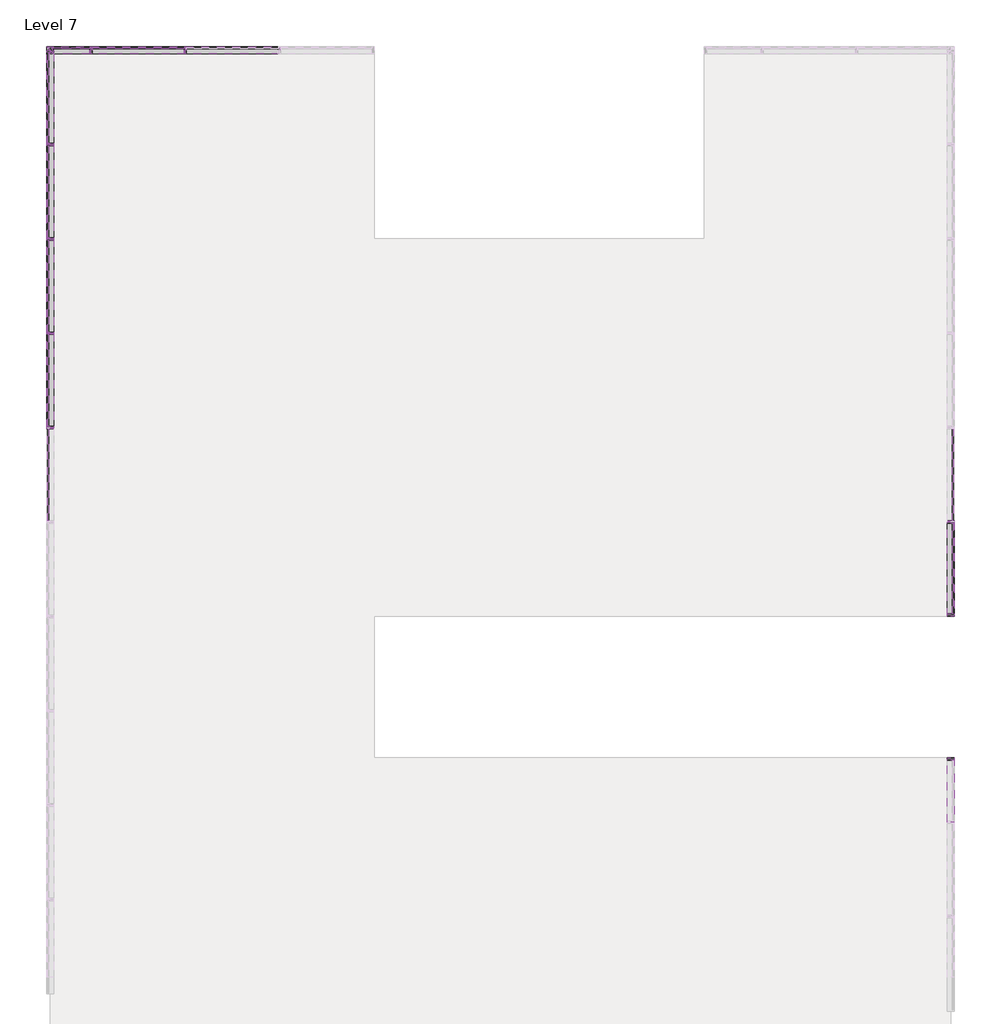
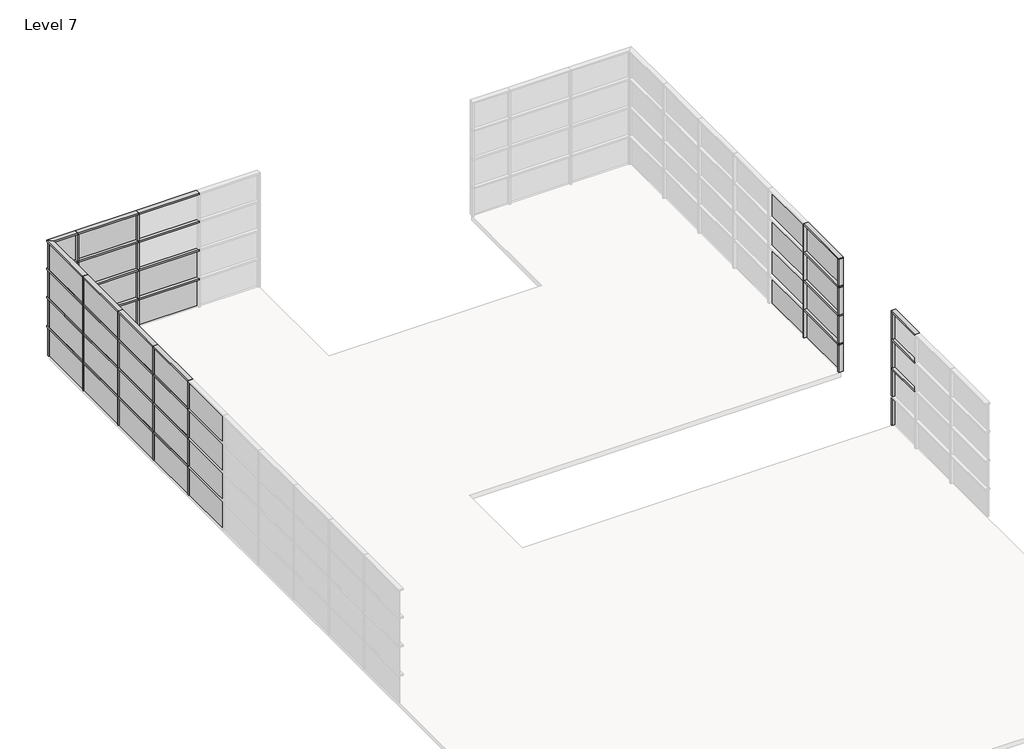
# One storey, part 4 of 5: 79 members, 38 plates.
"""IFC4 building model written with IfcOpenShell, lengths in millimetres."""

from ifc_helpers import new_model, si_unit, origin, place, context, project, spatial, transform, mapped, element, save
from components import rectangular_mullion_50_x_150mm_a053b0ca, rectangular_mullion_50_x_150mm_116cff39, rectangular_mullion_50_x_150mm_aa47fe12, rectangular_mullion_50_x_150mm_3a148f0f, rectangular_mullion_50_x_150mm_a91aaa2b, rectangular_mullion_50_x_150mm_12a430f9, rectangular_mullion_50_x_150mm_c5e90e74, rectangular_mullion_50_x_150mm_c4a1d10e, rectangular_mullion_50_x_150mm_98c2ab41, rectangular_mullion_50_x_150mm_947845bb, rectangular_mullion_50_x_150mm_5fc4eb71, rectangular_mullion_50_x_150mm_5a5a0db4, system_panel_glazed_92d57a36, system_panel_glazed_751a585c, system_panel_glazed_28c32ad2, system_panel_glazed_08de6f5f, system_panel_glazed_1e7c886c, system_panel_glazed_3868a10e

model = new_model("IFC4")

# Units and contexts
model_context = context("Model", 3, world=origin())
ifc_project = project(units=[si_unit("LENGTHUNIT", "METRE", prefix="MILLI")], contexts=[model_context])

# Site, building, storey
site = spatial("IfcSite", under=ifc_project)
building = spatial("IfcBuilding", under=site)
storey = spatial("IfcBuildingStorey", under=building, Name="Level 7", Elevation=24000.0)

# Members
placement = place(None, origin())
rectangular_mullion_50_x_150mm_shape = rectangular_mullion_50_x_150mm_a053b0ca(model_context)
element("IfcMember", 1, ObjectType="Rectangular Mullion : 50 x 150mm", at=placement, inside=storey, context=model_context, shape_type="MappedRepresentation", body=[
    mapped(rectangular_mullion_50_x_150mm_shape, transform((-5587.173406, 6375.9839566, 24025.0), x_axis=(0.0, -1.0, 0.0), y_axis=(-1.0, 0.0, 0.0), z_axis=(0.0, 0.0, -0.9999999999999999))),
])
element("IfcMember", 2, ObjectType="Rectangular Mullion : 50 x 150mm", at=placement, inside=storey, context=model_context, shape_type="MappedRepresentation", body=[
    mapped(rectangular_mullion_50_x_150mm_shape, transform((-5587.173406, 6375.9839566, 25025.0), x_axis=(0.0, -1.0, 0.0), y_axis=(-1.0, 0.0, 0.0), z_axis=(0.0, 0.0, -0.9999999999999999))),
])
element("IfcMember", 3, ObjectType="Rectangular Mullion : 50 x 150mm", at=placement, inside=storey, context=model_context, shape_type="MappedRepresentation", body=[
    mapped(rectangular_mullion_50_x_150mm_shape, transform((-5587.173406, 6375.9839566, 26025.0), x_axis=(0.0, -1.0, 0.0), y_axis=(-1.0, 0.0, 0.0), z_axis=(0.0, 0.0, -0.9999999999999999))),
])
element("IfcMember", 4, ObjectType="Rectangular Mullion : 50 x 150mm", at=placement, inside=storey, context=model_context, shape_type="MappedRepresentation", body=[
    mapped(rectangular_mullion_50_x_150mm_shape, transform((-5587.173406, 4375.9839566, 24025.0), x_axis=(0.0, -1.0, 0.0), y_axis=(-1.0, 0.0, 0.0), z_axis=(0.0, 0.0, -0.9999999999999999))),
])
element("IfcMember", 5, ObjectType="Rectangular Mullion : 50 x 150mm", at=placement, inside=storey, context=model_context, shape_type="MappedRepresentation", body=[
    mapped(rectangular_mullion_50_x_150mm_shape, transform((-5587.173406, 4375.9839566, 25025.0), x_axis=(0.0, -1.0, 0.0), y_axis=(-1.0, 0.0, 0.0), z_axis=(0.0, 0.0, -0.9999999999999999))),
])
element("IfcMember", 6, ObjectType="Rectangular Mullion : 50 x 150mm", at=placement, inside=storey, context=model_context, shape_type="MappedRepresentation", body=[
    mapped(rectangular_mullion_50_x_150mm_shape, transform((-5587.173406, 4375.9839566, 26025.0), x_axis=(0.0, -1.0, 0.0), y_axis=(-1.0, 0.0, 0.0), z_axis=(0.0, 0.0, -0.9999999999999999))),
])
element("IfcMember", 7, ObjectType="Rectangular Mullion : 50 x 150mm", at=placement, inside=storey, context=model_context, shape_type="MappedRepresentation", body=[
    mapped(rectangular_mullion_50_x_150mm_shape, transform((-5587.173406, 2375.9839566, 24025.0), x_axis=(0.0, -1.0, 0.0), y_axis=(-1.0, 0.0, 0.0), z_axis=(0.0, 0.0, -0.9999999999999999))),
])
element("IfcMember", 8, ObjectType="Rectangular Mullion : 50 x 150mm", at=placement, inside=storey, context=model_context, shape_type="MappedRepresentation", body=[
    mapped(rectangular_mullion_50_x_150mm_shape, transform((-5587.173406, 2375.9839566, 25025.0), x_axis=(0.0, -1.0, 0.0), y_axis=(-1.0, 0.0, 0.0), z_axis=(0.0, 0.0, -0.9999999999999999))),
])
element("IfcMember", 9, ObjectType="Rectangular Mullion : 50 x 150mm", at=placement, inside=storey, context=model_context, shape_type="MappedRepresentation", body=[
    mapped(rectangular_mullion_50_x_150mm_shape, transform((-5587.173406, 2375.9839566, 26025.0), x_axis=(0.0, -1.0, 0.0), y_axis=(-1.0, 0.0, 0.0), z_axis=(0.0, 0.0, -0.9999999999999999))),
])
element("IfcMember", 10, ObjectType="Rectangular Mullion : 50 x 150mm", at=placement, inside=storey, context=model_context, shape_type="MappedRepresentation", body=[
    mapped(rectangular_mullion_50_x_150mm_shape, transform((-5587.173406, 375.9839566, 24025.0), x_axis=(0.0, -1.0, 0.0), y_axis=(-1.0, 0.0, 0.0), z_axis=(0.0, 0.0, -0.9999999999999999))),
])
element("IfcMember", 11, ObjectType="Rectangular Mullion : 50 x 150mm", at=placement, inside=storey, context=model_context, shape_type="MappedRepresentation", body=[
    mapped(rectangular_mullion_50_x_150mm_shape, transform((-5587.173406, 375.9839566, 25025.0), x_axis=(0.0, -1.0, 0.0), y_axis=(-1.0, 0.0, 0.0), z_axis=(0.0, 0.0, -0.9999999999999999))),
])
element("IfcMember", 12, ObjectType="Rectangular Mullion : 50 x 150mm", at=placement, inside=storey, context=model_context, shape_type="MappedRepresentation", body=[
    mapped(rectangular_mullion_50_x_150mm_shape, transform((-5587.173406, 375.9839566, 26025.0), x_axis=(0.0, -1.0, 0.0), y_axis=(-1.0, 0.0, 0.0), z_axis=(0.0, 0.0, -0.9999999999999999))),
])
element("IfcMember", 13, ObjectType="Rectangular Mullion : 50 x 150mm", at=placement, inside=storey, context=model_context, shape_type="MappedRepresentation", body=[
    mapped(rectangular_mullion_50_x_150mm_shape, transform((-4721.580781, 8375.9839566, 24025.0), x_axis=(-1.0, 0.0, 0.0), y_axis=(0.0, 1.0, 0.0), z_axis=(0.0, 0.0, -0.9999999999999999))),
])
element("IfcMember", 14, ObjectType="Rectangular Mullion : 50 x 150mm", at=placement, inside=storey, context=model_context, shape_type="MappedRepresentation", body=[
    mapped(rectangular_mullion_50_x_150mm_shape, transform((-4721.580781, 8375.9839566, 25025.0), x_axis=(-1.0, 0.0, 0.0), y_axis=(0.0, 1.0, 0.0), z_axis=(0.0, 0.0, -0.9999999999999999))),
])
element("IfcMember", 15, ObjectType="Rectangular Mullion : 50 x 150mm", at=placement, inside=storey, context=model_context, shape_type="MappedRepresentation", body=[
    mapped(rectangular_mullion_50_x_150mm_shape, transform((-4721.580781, 8375.9839566, 26025.0), x_axis=(-1.0, 0.0, 0.0), y_axis=(0.0, 1.0, 0.0), z_axis=(0.0, 0.0, -0.9999999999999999))),
])
element("IfcMember", 16, ObjectType="Rectangular Mullion : 50 x 150mm", at=placement, inside=storey, context=model_context, shape_type="MappedRepresentation", body=[
    mapped(rectangular_mullion_50_x_150mm_shape, transform((-2721.580781, 8375.9839566, 24025.0), x_axis=(-1.0, 0.0, 0.0), y_axis=(0.0, 1.0, 0.0), z_axis=(0.0, 0.0, -0.9999999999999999))),
])
element("IfcMember", 17, ObjectType="Rectangular Mullion : 50 x 150mm", at=placement, inside=storey, context=model_context, shape_type="MappedRepresentation", body=[
    mapped(rectangular_mullion_50_x_150mm_shape, transform((-2721.580781, 8375.9839566, 25025.0), x_axis=(-1.0, 0.0, 0.0), y_axis=(0.0, 1.0, 0.0), z_axis=(0.0, 0.0, -0.9999999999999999))),
])
element("IfcMember", 18, ObjectType="Rectangular Mullion : 50 x 150mm", at=placement, inside=storey, context=model_context, shape_type="MappedRepresentation", body=[
    mapped(rectangular_mullion_50_x_150mm_shape, transform((-2721.580781, 8375.9839566, 26025.0), x_axis=(-1.0, 0.0, 0.0), y_axis=(0.0, 1.0, 0.0), z_axis=(0.0, 0.0, -0.9999999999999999))),
])
element("IfcMember", 19, ObjectType="Rectangular Mullion : 50 x 150mm", at=placement, inside=storey, context=model_context, shape_type="MappedRepresentation", body=[
    mapped(rectangular_mullion_50_x_150mm_shape, transform((13503.2660975, -1624.0160434, 24025.0), x_axis=(0.0, 1.0, 0.0), y_axis=(1.0, 0.0, 0.0), z_axis=(0.0, 0.0, -0.9999999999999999))),
])
element("IfcMember", 20, ObjectType="Rectangular Mullion : 50 x 150mm", at=placement, inside=storey, context=model_context, shape_type="MappedRepresentation", body=[
    mapped(rectangular_mullion_50_x_150mm_shape, transform((13503.2660975, -1624.0160434, 25025.0), x_axis=(0.0, 1.0, 0.0), y_axis=(1.0, 0.0, 0.0), z_axis=(0.0, 0.0, -0.9999999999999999))),
])
element("IfcMember", 21, ObjectType="Rectangular Mullion : 50 x 150mm", at=placement, inside=storey, context=model_context, shape_type="MappedRepresentation", body=[
    mapped(rectangular_mullion_50_x_150mm_shape, transform((13503.2660975, -1624.0160434, 26025.0), x_axis=(0.0, 1.0, 0.0), y_axis=(1.0, 0.0, 0.0), z_axis=(0.0, 0.0, -0.9999999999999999))),
])
rectangular_mullion_50_x_150mm_2_shape = rectangular_mullion_50_x_150mm_116cff39(model_context)
element("IfcMember", 22, ObjectType="Rectangular Mullion : 50 x 150mm", at=placement, inside=storey, context=model_context, shape_type="MappedRepresentation", body=[
    mapped(rectangular_mullion_50_x_150mm_2_shape, transform((-5587.173406, 6375.9839566, 27025.0), x_axis=(0.0, -1.0, 0.0), y_axis=(-1.0, 0.0, 0.0), z_axis=(0.0, 0.0, -1.0))),
])
element("IfcMember", 23, ObjectType="Rectangular Mullion : 50 x 150mm", at=placement, inside=storey, context=model_context, shape_type="MappedRepresentation", body=[
    mapped(rectangular_mullion_50_x_150mm_2_shape, transform((-5587.173406, 4375.9839566, 27025.0), x_axis=(0.0, -1.0, 0.0), y_axis=(-1.0, 0.0, 0.0), z_axis=(0.0, 0.0, -1.0))),
])
element("IfcMember", 24, ObjectType="Rectangular Mullion : 50 x 150mm", at=placement, inside=storey, context=model_context, shape_type="MappedRepresentation", body=[
    mapped(rectangular_mullion_50_x_150mm_2_shape, transform((-5587.173406, 2375.9839566, 27025.0), x_axis=(0.0, -1.0, 0.0), y_axis=(-1.0, 0.0, 0.0), z_axis=(0.0, 0.0, -1.0))),
])
element("IfcMember", 25, ObjectType="Rectangular Mullion : 50 x 150mm", at=placement, inside=storey, context=model_context, shape_type="MappedRepresentation", body=[
    mapped(rectangular_mullion_50_x_150mm_2_shape, transform((-5587.173406, 375.9839566, 27025.0), x_axis=(0.0, -1.0, 0.0), y_axis=(-1.0, 0.0, 0.0), z_axis=(0.0, 0.0, -1.0))),
])
element("IfcMember", 26, ObjectType="Rectangular Mullion : 50 x 150mm", at=placement, inside=storey, context=model_context, shape_type="MappedRepresentation", body=[
    mapped(rectangular_mullion_50_x_150mm_2_shape, transform((-4721.580781, 8375.9839566, 27025.0), x_axis=(-1.0, 0.0, 0.0), y_axis=(0.0, 1.0, 0.0), z_axis=(0.0, 0.0, -1.0))),
])
element("IfcMember", 27, ObjectType="Rectangular Mullion : 50 x 150mm", at=placement, inside=storey, context=model_context, shape_type="MappedRepresentation", body=[
    mapped(rectangular_mullion_50_x_150mm_2_shape, transform((-2721.580781, 8375.9839566, 27025.0), x_axis=(-1.0, 0.0, 0.0), y_axis=(0.0, 1.0, 0.0), z_axis=(0.0, 0.0, -1.0))),
])
element("IfcMember", 28, ObjectType="Rectangular Mullion : 50 x 150mm", at=placement, inside=storey, context=model_context, shape_type="MappedRepresentation", body=[
    mapped(rectangular_mullion_50_x_150mm_2_shape, transform((13503.2660975, -1624.0160434, 27025.0), x_axis=(0.0, 1.0, 0.0), y_axis=(1.0, 0.0, 0.0), z_axis=(0.0, 0.0, -1.0))),
])
rectangular_mullion_50_x_150mm_3_shape = rectangular_mullion_50_x_150mm_aa47fe12(model_context)
element("IfcMember", 29, ObjectType="Rectangular Mullion : 50 x 150mm", at=placement, inside=storey, context=model_context, shape_type="MappedRepresentation", body=[
    mapped(rectangular_mullion_50_x_150mm_3_shape, transform((13503.2660975, -1624.0160434, 28000.0), x_axis=(0.0, 0.0, 1.0), y_axis=(1.0, 0.0, 0.0), z_axis=(0.0, 1.0, 0.0))),
])
element("IfcMember", 30, ObjectType="Rectangular Mullion : 50 x 150mm", at=placement, inside=storey, context=model_context, shape_type="MappedRepresentation", body=[
    mapped(rectangular_mullion_50_x_150mm_3_shape, transform((-5587.173406, 4375.9839566, 28000.0), x_axis=(0.0, 0.0, 1.0), y_axis=(-1.0, 0.0, 0.0), z_axis=(0.0, -1.0, 0.0))),
])
element("IfcMember", 31, ObjectType="Rectangular Mullion : 50 x 150mm", at=placement, inside=storey, context=model_context, shape_type="MappedRepresentation", body=[
    mapped(rectangular_mullion_50_x_150mm_3_shape, transform((-5587.173406, 2375.9839566, 28000.0), x_axis=(0.0, 0.0, 1.0), y_axis=(-1.0, 0.0, 0.0), z_axis=(0.0, -1.0, 0.0))),
])
element("IfcMember", 32, ObjectType="Rectangular Mullion : 50 x 150mm", at=placement, inside=storey, context=model_context, shape_type="MappedRepresentation", body=[
    mapped(rectangular_mullion_50_x_150mm_3_shape, transform((-5587.173406, 375.9839566, 28000.0), x_axis=(0.0, 0.0, 1.0), y_axis=(-1.0, 0.0, 0.0), z_axis=(0.0, -1.0, 0.0))),
])
element("IfcMember", 33, ObjectType="Rectangular Mullion : 50 x 150mm", at=placement, inside=storey, context=model_context, shape_type="MappedRepresentation", body=[
    mapped(rectangular_mullion_50_x_150mm_3_shape, transform((-2721.580781, 8375.9839566, 28000.0), x_axis=(0.0, 0.0, 1.0), y_axis=(0.0, 1.0, 0.0), z_axis=(-1.0, 0.0, 0.0))),
])
element("IfcMember", 34, ObjectType="Rectangular Mullion : 50 x 150mm", at=placement, inside=storey, context=model_context, shape_type="MappedRepresentation", body=[
    mapped(rectangular_mullion_50_x_150mm_3_shape, transform((-4721.580781, 8375.9839566, 28000.0), x_axis=(0.0, 0.0, 1.0), y_axis=(0.0, 1.0, 0.0), z_axis=(-1.0, 0.0, 0.0))),
])
rectangular_mullion_50_x_150mm_4_shape = rectangular_mullion_50_x_150mm_3a148f0f(model_context)
element("IfcMember", 35, ObjectType="Rectangular Mullion : 50 x 150mm", at=placement, inside=storey, context=model_context, shape_type="MappedRepresentation", body=[
    mapped(rectangular_mullion_50_x_150mm_4_shape, transform((13503.2660975, -1624.0160434, 25000.0), x_axis=(0.0, 0.0, 1.0), y_axis=(1.0, 0.0, 0.0), z_axis=(0.0, 1.0, 0.0))),
])
element("IfcMember", 36, ObjectType="Rectangular Mullion : 50 x 150mm", at=placement, inside=storey, context=model_context, shape_type="MappedRepresentation", body=[
    mapped(rectangular_mullion_50_x_150mm_4_shape, transform((13503.2660975, -1624.0160434, 26000.0), x_axis=(0.0, 0.0, 1.0), y_axis=(1.0, 0.0, 0.0), z_axis=(0.0, 1.0, 0.0))),
])
element("IfcMember", 37, ObjectType="Rectangular Mullion : 50 x 150mm", at=placement, inside=storey, context=model_context, shape_type="MappedRepresentation", body=[
    mapped(rectangular_mullion_50_x_150mm_4_shape, transform((13503.2660975, -1624.0160434, 27000.0), x_axis=(0.0, 0.0, 1.0), y_axis=(1.0, 0.0, 0.0), z_axis=(0.0, 1.0, 0.0))),
])
element("IfcMember", 38, ObjectType="Rectangular Mullion : 50 x 150mm", at=placement, inside=storey, context=model_context, shape_type="MappedRepresentation", body=[
    mapped(rectangular_mullion_50_x_150mm_4_shape, transform((-5587.173406, 4375.9839566, 25000.0), x_axis=(0.0, 0.0, 1.0), y_axis=(-1.0, 0.0, 0.0), z_axis=(0.0, -1.0, 0.0))),
])
element("IfcMember", 39, ObjectType="Rectangular Mullion : 50 x 150mm", at=placement, inside=storey, context=model_context, shape_type="MappedRepresentation", body=[
    mapped(rectangular_mullion_50_x_150mm_4_shape, transform((-5587.173406, 2375.9839566, 25000.0), x_axis=(0.0, 0.0, 1.0), y_axis=(-1.0, 0.0, 0.0), z_axis=(0.0, -1.0, 0.0))),
])
element("IfcMember", 40, ObjectType="Rectangular Mullion : 50 x 150mm", at=placement, inside=storey, context=model_context, shape_type="MappedRepresentation", body=[
    mapped(rectangular_mullion_50_x_150mm_4_shape, transform((-5587.173406, 375.9839566, 25000.0), x_axis=(0.0, 0.0, 1.0), y_axis=(-1.0, 0.0, 0.0), z_axis=(0.0, -1.0, 0.0))),
])
element("IfcMember", 41, ObjectType="Rectangular Mullion : 50 x 150mm", at=placement, inside=storey, context=model_context, shape_type="MappedRepresentation", body=[
    mapped(rectangular_mullion_50_x_150mm_4_shape, transform((-5587.173406, 4375.9839566, 26000.0), x_axis=(0.0, 0.0, 1.0), y_axis=(-1.0, 0.0, 0.0), z_axis=(0.0, -1.0, 0.0))),
])
element("IfcMember", 42, ObjectType="Rectangular Mullion : 50 x 150mm", at=placement, inside=storey, context=model_context, shape_type="MappedRepresentation", body=[
    mapped(rectangular_mullion_50_x_150mm_4_shape, transform((-5587.173406, 2375.9839566, 26000.0), x_axis=(0.0, 0.0, 1.0), y_axis=(-1.0, 0.0, 0.0), z_axis=(0.0, -1.0, 0.0))),
])
element("IfcMember", 43, ObjectType="Rectangular Mullion : 50 x 150mm", at=placement, inside=storey, context=model_context, shape_type="MappedRepresentation", body=[
    mapped(rectangular_mullion_50_x_150mm_4_shape, transform((-5587.173406, 375.9839566, 26000.0), x_axis=(0.0, 0.0, 1.0), y_axis=(-1.0, 0.0, 0.0), z_axis=(0.0, -1.0, 0.0))),
])
element("IfcMember", 44, ObjectType="Rectangular Mullion : 50 x 150mm", at=placement, inside=storey, context=model_context, shape_type="MappedRepresentation", body=[
    mapped(rectangular_mullion_50_x_150mm_4_shape, transform((-5587.173406, 4375.9839566, 27000.0), x_axis=(0.0, 0.0, 1.0), y_axis=(-1.0, 0.0, 0.0), z_axis=(0.0, -1.0, 0.0))),
])
element("IfcMember", 45, ObjectType="Rectangular Mullion : 50 x 150mm", at=placement, inside=storey, context=model_context, shape_type="MappedRepresentation", body=[
    mapped(rectangular_mullion_50_x_150mm_4_shape, transform((-5587.173406, 2375.9839566, 27000.0), x_axis=(0.0, 0.0, 1.0), y_axis=(-1.0, 0.0, 0.0), z_axis=(0.0, -1.0, 0.0))),
])
element("IfcMember", 46, ObjectType="Rectangular Mullion : 50 x 150mm", at=placement, inside=storey, context=model_context, shape_type="MappedRepresentation", body=[
    mapped(rectangular_mullion_50_x_150mm_4_shape, transform((-5587.173406, 375.9839566, 27000.0), x_axis=(0.0, 0.0, 1.0), y_axis=(-1.0, 0.0, 0.0), z_axis=(0.0, -1.0, 0.0))),
])
element("IfcMember", 47, ObjectType="Rectangular Mullion : 50 x 150mm", at=placement, inside=storey, context=model_context, shape_type="MappedRepresentation", body=[
    mapped(rectangular_mullion_50_x_150mm_4_shape, transform((-2721.580781, 8375.9839566, 25000.0), x_axis=(0.0, 0.0, 1.0), y_axis=(0.0, 1.0, 0.0), z_axis=(-1.0, 0.0, 0.0))),
])
element("IfcMember", 48, ObjectType="Rectangular Mullion : 50 x 150mm", at=placement, inside=storey, context=model_context, shape_type="MappedRepresentation", body=[
    mapped(rectangular_mullion_50_x_150mm_4_shape, transform((-4721.580781, 8375.9839566, 25000.0), x_axis=(0.0, 0.0, 1.0), y_axis=(0.0, 1.0, 0.0), z_axis=(-1.0, 0.0, 0.0))),
])
element("IfcMember", 49, ObjectType="Rectangular Mullion : 50 x 150mm", at=placement, inside=storey, context=model_context, shape_type="MappedRepresentation", body=[
    mapped(rectangular_mullion_50_x_150mm_4_shape, transform((-2721.580781, 8375.9839566, 26000.0), x_axis=(0.0, 0.0, 1.0), y_axis=(0.0, 1.0, 0.0), z_axis=(-1.0, 0.0, 0.0))),
])
element("IfcMember", 50, ObjectType="Rectangular Mullion : 50 x 150mm", at=placement, inside=storey, context=model_context, shape_type="MappedRepresentation", body=[
    mapped(rectangular_mullion_50_x_150mm_4_shape, transform((-4721.580781, 8375.9839566, 26000.0), x_axis=(0.0, 0.0, 1.0), y_axis=(0.0, 1.0, 0.0), z_axis=(-1.0, 0.0, 0.0))),
])
element("IfcMember", 51, ObjectType="Rectangular Mullion : 50 x 150mm", at=placement, inside=storey, context=model_context, shape_type="MappedRepresentation", body=[
    mapped(rectangular_mullion_50_x_150mm_4_shape, transform((-2721.580781, 8375.9839566, 27000.0), x_axis=(0.0, 0.0, 1.0), y_axis=(0.0, 1.0, 0.0), z_axis=(-1.0, 0.0, 0.0))),
])
element("IfcMember", 52, ObjectType="Rectangular Mullion : 50 x 150mm", at=placement, inside=storey, context=model_context, shape_type="MappedRepresentation", body=[
    mapped(rectangular_mullion_50_x_150mm_4_shape, transform((-4721.580781, 8375.9839566, 27000.0), x_axis=(0.0, 0.0, 1.0), y_axis=(0.0, 1.0, 0.0), z_axis=(-1.0, 0.0, 0.0))),
])
rectangular_mullion_50_x_150mm_5_shape = rectangular_mullion_50_x_150mm_a91aaa2b(model_context)
element("IfcMember", 53, ObjectType="Rectangular Mullion : 50 x 150mm", at=placement, inside=storey, context=model_context, shape_type="MappedRepresentation", body=[
    mapped(rectangular_mullion_50_x_150mm_5_shape, transform((-5587.173406, 8375.9839566, 27950.0), x_axis=(0.0, 1.0, 0.0), y_axis=(-1.0, 0.0, 0.0), z_axis=(0.0, 0.0, 1.0))),
])
element("IfcMember", 54, ObjectType="Rectangular Mullion : 50 x 150mm", at=placement, inside=storey, context=model_context, shape_type="MappedRepresentation", body=[
    mapped(rectangular_mullion_50_x_150mm_5_shape, transform((13503.2660975, -3624.0160434, 27950.0), x_axis=(0.0, -1.0, 0.0), y_axis=(1.0, 0.0, 0.0), z_axis=(0.0, 0.0, 1.0))),
])
rectangular_mullion_50_x_150mm_6_shape = rectangular_mullion_50_x_150mm_12a430f9(model_context)
element("IfcMember", 55, ObjectType="Rectangular Mullion : 50 x 150mm", at=placement, inside=storey, context=model_context, shape_type="MappedRepresentation", body=[
    mapped(rectangular_mullion_50_x_150mm_6_shape, transform((-5587.173406, 8375.9839566, 24975.0), x_axis=(0.0, 1.0, 0.0), y_axis=(-1.0, 0.0, 0.0), z_axis=(0.0, 0.0, 0.9999999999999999))),
])
element("IfcMember", 56, ObjectType="Rectangular Mullion : 50 x 150mm", at=placement, inside=storey, context=model_context, shape_type="MappedRepresentation", body=[
    mapped(rectangular_mullion_50_x_150mm_6_shape, transform((-5587.173406, 8375.9839566, 25975.0), x_axis=(0.0, 1.0, 0.0), y_axis=(-1.0, 0.0, 0.0), z_axis=(0.0, 0.0, 0.9999999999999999))),
])
element("IfcMember", 57, ObjectType="Rectangular Mullion : 50 x 150mm", at=placement, inside=storey, context=model_context, shape_type="MappedRepresentation", body=[
    mapped(rectangular_mullion_50_x_150mm_6_shape, transform((-5587.173406, 8375.9839566, 26975.0), x_axis=(0.0, 1.0, 0.0), y_axis=(-1.0, 0.0, 0.0), z_axis=(0.0, 0.0, 0.9999999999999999))),
])
element("IfcMember", 58, ObjectType="Rectangular Mullion : 50 x 150mm", at=placement, inside=storey, context=model_context, shape_type="MappedRepresentation", body=[
    mapped(rectangular_mullion_50_x_150mm_6_shape, transform((13503.2660975, -3624.0160434, 24975.0), x_axis=(0.0, -1.0, 0.0), y_axis=(1.0, 0.0, 0.0), z_axis=(0.0, 0.0, 0.9999999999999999))),
])
element("IfcMember", 59, ObjectType="Rectangular Mullion : 50 x 150mm", at=placement, inside=storey, context=model_context, shape_type="MappedRepresentation", body=[
    mapped(rectangular_mullion_50_x_150mm_6_shape, transform((13503.2660975, -3624.0160434, 25975.0), x_axis=(0.0, -1.0, 0.0), y_axis=(1.0, 0.0, 0.0), z_axis=(0.0, 0.0, 0.9999999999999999))),
])
element("IfcMember", 60, ObjectType="Rectangular Mullion : 50 x 150mm", at=placement, inside=storey, context=model_context, shape_type="MappedRepresentation", body=[
    mapped(rectangular_mullion_50_x_150mm_6_shape, transform((13503.2660975, -3624.0160434, 26975.0), x_axis=(0.0, -1.0, 0.0), y_axis=(1.0, 0.0, 0.0), z_axis=(0.0, 0.0, 0.9999999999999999))),
])
element("IfcMember", 61, ObjectType="Rectangular Mullion : 50 x 150mm", at=placement, inside=storey, context=model_context, shape_type="MappedRepresentation", body=[
    mapped(rectangular_mullion_50_x_150mm_6_shape, transform((-5587.173406, 8375.9839566, 24025.0), x_axis=(-1.0, 0.0, 0.0), y_axis=(0.0, 1.0, 0.0), z_axis=(0.0, 0.0, -0.9999999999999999))),
])
element("IfcMember", 62, ObjectType="Rectangular Mullion : 50 x 150mm", at=placement, inside=storey, context=model_context, shape_type="MappedRepresentation", body=[
    mapped(rectangular_mullion_50_x_150mm_6_shape, transform((-5587.173406, 8375.9839566, 25025.0), x_axis=(-1.0, 0.0, 0.0), y_axis=(0.0, 1.0, 0.0), z_axis=(0.0, 0.0, -0.9999999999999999))),
])
element("IfcMember", 63, ObjectType="Rectangular Mullion : 50 x 150mm", at=placement, inside=storey, context=model_context, shape_type="MappedRepresentation", body=[
    mapped(rectangular_mullion_50_x_150mm_6_shape, transform((-5587.173406, 8375.9839566, 26025.0), x_axis=(-1.0, 0.0, 0.0), y_axis=(0.0, 1.0, 0.0), z_axis=(0.0, 0.0, -0.9999999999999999))),
])
element("IfcMember", 64, ObjectType="Rectangular Mullion : 50 x 150mm", at=placement, inside=storey, context=model_context, shape_type="MappedRepresentation", body=[
    mapped(rectangular_mullion_50_x_150mm_6_shape, transform((13503.2660975, -6624.0160434, 24025.0), x_axis=(0.0, 1.0, 0.0), y_axis=(1.0, 0.0, 0.0), z_axis=(0.0, 0.0, -0.9999999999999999))),
])
element("IfcMember", 65, ObjectType="Rectangular Mullion : 50 x 150mm", at=placement, inside=storey, context=model_context, shape_type="MappedRepresentation", body=[
    mapped(rectangular_mullion_50_x_150mm_6_shape, transform((13503.2660975, -6624.0160434, 25025.0), x_axis=(0.0, 1.0, 0.0), y_axis=(1.0, 0.0, 0.0), z_axis=(0.0, 0.0, -0.9999999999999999))),
])
element("IfcMember", 66, ObjectType="Rectangular Mullion : 50 x 150mm", at=placement, inside=storey, context=model_context, shape_type="MappedRepresentation", body=[
    mapped(rectangular_mullion_50_x_150mm_6_shape, transform((13503.2660975, -6624.0160434, 26025.0), x_axis=(0.0, 1.0, 0.0), y_axis=(1.0, 0.0, 0.0), z_axis=(0.0, 0.0, -0.9999999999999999))),
])
element("IfcMember", 67, ObjectType="Rectangular Mullion : 50 x 150mm", at=placement, inside=storey, context=model_context, shape_type="MappedRepresentation", body=[
    mapped(rectangular_mullion_50_x_150mm_5_shape, transform((-5587.173406, 8375.9839566, 27025.0), x_axis=(-1.0, 0.0, 0.0), y_axis=(0.0, 1.0, 0.0), z_axis=(0.0, 0.0, -1.0))),
])
element("IfcMember", 68, ObjectType="Rectangular Mullion : 50 x 150mm", at=placement, inside=storey, context=model_context, shape_type="MappedRepresentation", body=[
    mapped(rectangular_mullion_50_x_150mm_5_shape, transform((13503.2660975, -6624.0160434, 27025.0), x_axis=(0.0, 1.0, 0.0), y_axis=(1.0, 0.0, 0.0), z_axis=(0.0, 0.0, -1.0))),
])
rectangular_mullion_50_x_150mm_7_shape = rectangular_mullion_50_x_150mm_c5e90e74(model_context)
element("IfcMember", 69, ObjectType="Rectangular Mullion : 50 x 150mm", at=placement, inside=storey, context=model_context, shape_type="MappedRepresentation", body=[
    mapped(rectangular_mullion_50_x_150mm_7_shape, transform((-5587.173406, 8375.9839566, 28000.0), x_axis=(0.0, 0.0, 1.0), y_axis=(0.0, 1.0, 0.0), z_axis=(-1.0, 0.0, 0.0))),
])
rectangular_mullion_50_x_150mm_8_shape = rectangular_mullion_50_x_150mm_c4a1d10e(model_context)
element("IfcMember", 70, ObjectType="Rectangular Mullion : 50 x 150mm", at=placement, inside=storey, context=model_context, shape_type="MappedRepresentation", body=[
    mapped(rectangular_mullion_50_x_150mm_8_shape, transform((-5587.173406, 8375.9839566, 25000.0), x_axis=(0.0, 0.0, 1.0), y_axis=(0.0, 1.0, 0.0), z_axis=(-1.0, 0.0, 0.0))),
])
element("IfcMember", 71, ObjectType="Rectangular Mullion : 50 x 150mm", at=placement, inside=storey, context=model_context, shape_type="MappedRepresentation", body=[
    mapped(rectangular_mullion_50_x_150mm_8_shape, transform((-5587.173406, 8375.9839566, 26000.0), x_axis=(0.0, 0.0, 1.0), y_axis=(0.0, 1.0, 0.0), z_axis=(-1.0, 0.0, 0.0))),
])
element("IfcMember", 72, ObjectType="Rectangular Mullion : 50 x 150mm", at=placement, inside=storey, context=model_context, shape_type="MappedRepresentation", body=[
    mapped(rectangular_mullion_50_x_150mm_8_shape, transform((-5587.173406, 8375.9839566, 27000.0), x_axis=(0.0, 0.0, 1.0), y_axis=(0.0, 1.0, 0.0), z_axis=(-1.0, 0.0, 0.0))),
])
rectangular_mullion_50_x_150mm_9_shape = rectangular_mullion_50_x_150mm_98c2ab41(model_context)
element("IfcMember", 73, ObjectType="Rectangular Mullion : 50 x 150mm", at=placement, inside=storey, context=model_context, shape_type="MappedRepresentation", body=[
    mapped(rectangular_mullion_50_x_150mm_9_shape, transform((-5587.173406, 6375.9839566, 28000.0), x_axis=(0.0, 0.0, 1.0), y_axis=(-1.0, 0.0, 0.0), z_axis=(0.0, -1.0, 0.0))),
])
rectangular_mullion_50_x_150mm_10_shape = rectangular_mullion_50_x_150mm_947845bb(model_context)
element("IfcMember", 74, ObjectType="Rectangular Mullion : 50 x 150mm", at=placement, inside=storey, context=model_context, shape_type="MappedRepresentation", body=[
    mapped(rectangular_mullion_50_x_150mm_10_shape, transform((-5587.173406, 6375.9839566, 25000.0), x_axis=(0.0, 0.0, 1.0), y_axis=(-1.0, 0.0, 0.0), z_axis=(0.0, -1.0, 0.0))),
])
element("IfcMember", 75, ObjectType="Rectangular Mullion : 50 x 150mm", at=placement, inside=storey, context=model_context, shape_type="MappedRepresentation", body=[
    mapped(rectangular_mullion_50_x_150mm_10_shape, transform((-5587.173406, 6375.9839566, 26000.0), x_axis=(0.0, 0.0, 1.0), y_axis=(-1.0, 0.0, 0.0), z_axis=(0.0, -1.0, 0.0))),
])
element("IfcMember", 76, ObjectType="Rectangular Mullion : 50 x 150mm", at=placement, inside=storey, context=model_context, shape_type="MappedRepresentation", body=[
    mapped(rectangular_mullion_50_x_150mm_10_shape, transform((-5587.173406, 6375.9839566, 27000.0), x_axis=(0.0, 0.0, 1.0), y_axis=(-1.0, 0.0, 0.0), z_axis=(0.0, -1.0, 0.0))),
])
rectangular_mullion_50_x_150mm_11_shape = rectangular_mullion_50_x_150mm_5fc4eb71(model_context)
element("IfcMember", 77, ObjectType="Rectangular Mullion : 50 x 150mm", at=placement, inside=storey, context=model_context, shape_type="MappedRepresentation", body=[
    mapped(rectangular_mullion_50_x_150mm_11_shape, transform((13503.2660975, -6624.0160434, 26000.0), x_axis=(0.0, 0.0, 1.0), y_axis=(1.0, 0.0, 0.0), z_axis=(0.0, 1.0, 0.0))),
])
element("IfcMember", 78, ObjectType="Rectangular Mullion : 50 x 150mm", at=placement, inside=storey, context=model_context, shape_type="MappedRepresentation", body=[
    mapped(rectangular_mullion_50_x_150mm_11_shape, transform((13503.2660975, -6624.0160434, 27000.0), x_axis=(0.0, 0.0, 1.0), y_axis=(1.0, 0.0, 0.0), z_axis=(0.0, 1.0, 0.0))),
])
rectangular_mullion_50_x_150mm_12_shape = rectangular_mullion_50_x_150mm_5a5a0db4(model_context)
element("IfcMember", 79, ObjectType="Rectangular Mullion : 50 x 150mm", at=placement, inside=storey, context=model_context, shape_type="MappedRepresentation", body=[
    mapped(rectangular_mullion_50_x_150mm_12_shape, transform((13503.2660975, -6624.0160434, 28000.0), x_axis=(0.0, 0.0, 1.0), y_axis=(1.0, 0.0, 0.0), z_axis=(0.0, 1.0, 0.0))),
])

# Plates
system_panel_glazed_shape = system_panel_glazed_92d57a36(model_context)
element("IfcPlate", 80, ObjectType="System Panel : Glazed", at=placement, inside=storey, context=model_context, shape_type="MappedRepresentation", body=[
    mapped(system_panel_glazed_shape, transform((-5587.173406, 8325.9839566, 27487.5), x_axis=(0.0, 0.0, 1.0), y_axis=(-1.0, 0.0, 0.0), z_axis=(0.0, -1.0, 0.0))),
])
element("IfcPlate", 81, ObjectType="System Panel : Glazed", at=placement, inside=storey, context=model_context, shape_type="MappedRepresentation", body=[
    mapped(system_panel_glazed_shape, transform((13503.2660975, -3574.0160434, 27487.5), x_axis=(0.0, 0.0, 1.0), y_axis=(1.0, 0.0, 0.0), z_axis=(0.0, 1.0, 0.0))),
])
system_panel_glazed_2_shape = system_panel_glazed_751a585c(model_context)
element("IfcPlate", 82, ObjectType="System Panel : Glazed", at=placement, inside=storey, context=model_context, shape_type="MappedRepresentation", body=[
    mapped(system_panel_glazed_2_shape, transform((-5587.173406, 8325.9839566, 24500.0), x_axis=(0.0, 0.0, 1.0), y_axis=(-1.0, 0.0, 0.0), z_axis=(0.0, -1.0, 0.0))),
])
element("IfcPlate", 83, ObjectType="System Panel : Glazed", at=placement, inside=storey, context=model_context, shape_type="MappedRepresentation", body=[
    mapped(system_panel_glazed_2_shape, transform((-5587.173406, 8325.9839566, 25500.0), x_axis=(0.0, 0.0, 1.0), y_axis=(-1.0, 0.0, 0.0), z_axis=(0.0, -1.0, 0.0))),
])
element("IfcPlate", 84, ObjectType="System Panel : Glazed", at=placement, inside=storey, context=model_context, shape_type="MappedRepresentation", body=[
    mapped(system_panel_glazed_2_shape, transform((-5587.173406, 8325.9839566, 26500.0), x_axis=(0.0, 0.0, 1.0), y_axis=(-1.0, 0.0, 0.0), z_axis=(0.0, -1.0, 0.0))),
])
element("IfcPlate", 85, ObjectType="System Panel : Glazed", at=placement, inside=storey, context=model_context, shape_type="MappedRepresentation", body=[
    mapped(system_panel_glazed_2_shape, transform((13503.2660975, -3574.0160434, 24500.0), x_axis=(0.0, 0.0, 1.0), y_axis=(1.0, 0.0, 0.0), z_axis=(0.0, 1.0, 0.0))),
])
element("IfcPlate", 86, ObjectType="System Panel : Glazed", at=placement, inside=storey, context=model_context, shape_type="MappedRepresentation", body=[
    mapped(system_panel_glazed_2_shape, transform((13503.2660975, -3574.0160434, 25500.0), x_axis=(0.0, 0.0, 1.0), y_axis=(1.0, 0.0, 0.0), z_axis=(0.0, 1.0, 0.0))),
])
element("IfcPlate", 87, ObjectType="System Panel : Glazed", at=placement, inside=storey, context=model_context, shape_type="MappedRepresentation", body=[
    mapped(system_panel_glazed_2_shape, transform((13503.2660975, -3574.0160434, 26500.0), x_axis=(0.0, 0.0, 1.0), y_axis=(1.0, 0.0, 0.0), z_axis=(0.0, 1.0, 0.0))),
])
system_panel_glazed_3_shape = system_panel_glazed_28c32ad2(model_context)
element("IfcPlate", 88, ObjectType="System Panel : Glazed", at=placement, inside=storey, context=model_context, shape_type="MappedRepresentation", body=[
    mapped(system_panel_glazed_3_shape, transform((-5587.173406, 6350.9839566, 27487.5), x_axis=(0.0, 0.0, 1.0), y_axis=(-1.0, 0.0, 0.0), z_axis=(0.0, -1.0, 0.0))),
])
element("IfcPlate", 89, ObjectType="System Panel : Glazed", at=placement, inside=storey, context=model_context, shape_type="MappedRepresentation", body=[
    mapped(system_panel_glazed_3_shape, transform((-5587.173406, 4350.9839566, 27487.5), x_axis=(0.0, 0.0, 1.0), y_axis=(-1.0, 0.0, 0.0), z_axis=(0.0, -1.0, 0.0))),
])
element("IfcPlate", 90, ObjectType="System Panel : Glazed", at=placement, inside=storey, context=model_context, shape_type="MappedRepresentation", body=[
    mapped(system_panel_glazed_3_shape, transform((-5587.173406, 2350.9839566, 27487.5), x_axis=(0.0, 0.0, 1.0), y_axis=(-1.0, 0.0, 0.0), z_axis=(0.0, -1.0, 0.0))),
])
element("IfcPlate", 91, ObjectType="System Panel : Glazed", at=placement, inside=storey, context=model_context, shape_type="MappedRepresentation", body=[
    mapped(system_panel_glazed_3_shape, transform((-5587.173406, 350.9839566, 27487.5), x_axis=(0.0, 0.0, 1.0), y_axis=(-1.0, 0.0, 0.0), z_axis=(0.0, -1.0, 0.0))),
])
element("IfcPlate", 92, ObjectType="System Panel : Glazed", at=placement, inside=storey, context=model_context, shape_type="MappedRepresentation", body=[
    mapped(system_panel_glazed_3_shape, transform((13503.2660975, -1599.0160434, 27487.5), x_axis=(0.0, 0.0, 1.0), y_axis=(1.0, 0.0, 0.0), z_axis=(0.0, 1.0, 0.0))),
])
element("IfcPlate", 93, ObjectType="System Panel : Glazed", at=placement, inside=storey, context=model_context, shape_type="MappedRepresentation", body=[
    mapped(system_panel_glazed_3_shape, transform((-2746.580781, 8375.9839566, 27487.5), x_axis=(0.0, 0.0, 1.0), y_axis=(0.0, 1.0, 0.0), z_axis=(-1.0, 0.0, 0.0))),
])
system_panel_glazed_4_shape = system_panel_glazed_08de6f5f(model_context)
element("IfcPlate", 94, ObjectType="System Panel : Glazed", at=placement, inside=storey, context=model_context, shape_type="MappedRepresentation", body=[
    mapped(system_panel_glazed_4_shape, transform((-5587.173406, 6350.9839566, 24500.0), x_axis=(0.0, 0.0, 1.0), y_axis=(-1.0, 0.0, 0.0), z_axis=(0.0, -1.0, 0.0))),
])
element("IfcPlate", 95, ObjectType="System Panel : Glazed", at=placement, inside=storey, context=model_context, shape_type="MappedRepresentation", body=[
    mapped(system_panel_glazed_4_shape, transform((-5587.173406, 4350.9839566, 24500.0), x_axis=(0.0, 0.0, 1.0), y_axis=(-1.0, 0.0, 0.0), z_axis=(0.0, -1.0, 0.0))),
])
element("IfcPlate", 96, ObjectType="System Panel : Glazed", at=placement, inside=storey, context=model_context, shape_type="MappedRepresentation", body=[
    mapped(system_panel_glazed_4_shape, transform((-5587.173406, 2350.9839566, 24500.0), x_axis=(0.0, 0.0, 1.0), y_axis=(-1.0, 0.0, 0.0), z_axis=(0.0, -1.0, 0.0))),
])
element("IfcPlate", 97, ObjectType="System Panel : Glazed", at=placement, inside=storey, context=model_context, shape_type="MappedRepresentation", body=[
    mapped(system_panel_glazed_4_shape, transform((-5587.173406, 350.9839566, 24500.0), x_axis=(0.0, 0.0, 1.0), y_axis=(-1.0, 0.0, 0.0), z_axis=(0.0, -1.0, 0.0))),
])
element("IfcPlate", 98, ObjectType="System Panel : Glazed", at=placement, inside=storey, context=model_context, shape_type="MappedRepresentation", body=[
    mapped(system_panel_glazed_4_shape, transform((-5587.173406, 6350.9839566, 25500.0), x_axis=(0.0, 0.0, 1.0), y_axis=(-1.0, 0.0, 0.0), z_axis=(0.0, -1.0, 0.0))),
])
element("IfcPlate", 99, ObjectType="System Panel : Glazed", at=placement, inside=storey, context=model_context, shape_type="MappedRepresentation", body=[
    mapped(system_panel_glazed_4_shape, transform((-5587.173406, 4350.9839566, 25500.0), x_axis=(0.0, 0.0, 1.0), y_axis=(-1.0, 0.0, 0.0), z_axis=(0.0, -1.0, 0.0))),
])
element("IfcPlate", 100, ObjectType="System Panel : Glazed", at=placement, inside=storey, context=model_context, shape_type="MappedRepresentation", body=[
    mapped(system_panel_glazed_4_shape, transform((-5587.173406, 2350.9839566, 25500.0), x_axis=(0.0, 0.0, 1.0), y_axis=(-1.0, 0.0, 0.0), z_axis=(0.0, -1.0, 0.0))),
])
element("IfcPlate", 101, ObjectType="System Panel : Glazed", at=placement, inside=storey, context=model_context, shape_type="MappedRepresentation", body=[
    mapped(system_panel_glazed_4_shape, transform((-5587.173406, 350.9839566, 25500.0), x_axis=(0.0, 0.0, 1.0), y_axis=(-1.0, 0.0, 0.0), z_axis=(0.0, -1.0, 0.0))),
])
element("IfcPlate", 102, ObjectType="System Panel : Glazed", at=placement, inside=storey, context=model_context, shape_type="MappedRepresentation", body=[
    mapped(system_panel_glazed_4_shape, transform((-5587.173406, 6350.9839566, 26500.0), x_axis=(0.0, 0.0, 1.0), y_axis=(-1.0, 0.0, 0.0), z_axis=(0.0, -1.0, 0.0))),
])
element("IfcPlate", 103, ObjectType="System Panel : Glazed", at=placement, inside=storey, context=model_context, shape_type="MappedRepresentation", body=[
    mapped(system_panel_glazed_4_shape, transform((-5587.173406, 4350.9839566, 26500.0), x_axis=(0.0, 0.0, 1.0), y_axis=(-1.0, 0.0, 0.0), z_axis=(0.0, -1.0, 0.0))),
])
element("IfcPlate", 104, ObjectType="System Panel : Glazed", at=placement, inside=storey, context=model_context, shape_type="MappedRepresentation", body=[
    mapped(system_panel_glazed_4_shape, transform((-5587.173406, 2350.9839566, 26500.0), x_axis=(0.0, 0.0, 1.0), y_axis=(-1.0, 0.0, 0.0), z_axis=(0.0, -1.0, 0.0))),
])
element("IfcPlate", 105, ObjectType="System Panel : Glazed", at=placement, inside=storey, context=model_context, shape_type="MappedRepresentation", body=[
    mapped(system_panel_glazed_4_shape, transform((-5587.173406, 350.9839566, 26500.0), x_axis=(0.0, 0.0, 1.0), y_axis=(-1.0, 0.0, 0.0), z_axis=(0.0, -1.0, 0.0))),
])
element("IfcPlate", 106, ObjectType="System Panel : Glazed", at=placement, inside=storey, context=model_context, shape_type="MappedRepresentation", body=[
    mapped(system_panel_glazed_4_shape, transform((13503.2660975, -1599.0160434, 24500.0), x_axis=(0.0, 0.0, 1.0), y_axis=(1.0, 0.0, 0.0), z_axis=(0.0, 1.0, 0.0))),
])
element("IfcPlate", 107, ObjectType="System Panel : Glazed", at=placement, inside=storey, context=model_context, shape_type="MappedRepresentation", body=[
    mapped(system_panel_glazed_4_shape, transform((13503.2660975, -1599.0160434, 25500.0), x_axis=(0.0, 0.0, 1.0), y_axis=(1.0, 0.0, 0.0), z_axis=(0.0, 1.0, 0.0))),
])
element("IfcPlate", 108, ObjectType="System Panel : Glazed", at=placement, inside=storey, context=model_context, shape_type="MappedRepresentation", body=[
    mapped(system_panel_glazed_4_shape, transform((13503.2660975, -1599.0160434, 26500.0), x_axis=(0.0, 0.0, 1.0), y_axis=(1.0, 0.0, 0.0), z_axis=(0.0, 1.0, 0.0))),
])
element("IfcPlate", 109, ObjectType="System Panel : Glazed", at=placement, inside=storey, context=model_context, shape_type="MappedRepresentation", body=[
    mapped(system_panel_glazed_4_shape, transform((-746.580781, 8375.9839566, 24500.0), x_axis=(0.0, 0.0, 1.0), y_axis=(0.0, 1.0, 0.0), z_axis=(-1.0, 0.0, 0.0))),
])
element("IfcPlate", 110, ObjectType="System Panel : Glazed", at=placement, inside=storey, context=model_context, shape_type="MappedRepresentation", body=[
    mapped(system_panel_glazed_4_shape, transform((-2746.580781, 8375.9839566, 24500.0), x_axis=(0.0, 0.0, 1.0), y_axis=(0.0, 1.0, 0.0), z_axis=(-1.0, 0.0, 0.0))),
])
element("IfcPlate", 111, ObjectType="System Panel : Glazed", at=placement, inside=storey, context=model_context, shape_type="MappedRepresentation", body=[
    mapped(system_panel_glazed_4_shape, transform((-746.580781, 8375.9839566, 25500.0), x_axis=(0.0, 0.0, 1.0), y_axis=(0.0, 1.0, 0.0), z_axis=(-1.0, 0.0, 0.0))),
])
element("IfcPlate", 112, ObjectType="System Panel : Glazed", at=placement, inside=storey, context=model_context, shape_type="MappedRepresentation", body=[
    mapped(system_panel_glazed_4_shape, transform((-2746.580781, 8375.9839566, 25500.0), x_axis=(0.0, 0.0, 1.0), y_axis=(0.0, 1.0, 0.0), z_axis=(-1.0, 0.0, 0.0))),
])
element("IfcPlate", 113, ObjectType="System Panel : Glazed", at=placement, inside=storey, context=model_context, shape_type="MappedRepresentation", body=[
    mapped(system_panel_glazed_4_shape, transform((-2746.580781, 8375.9839566, 26500.0), x_axis=(0.0, 0.0, 1.0), y_axis=(0.0, 1.0, 0.0), z_axis=(-1.0, 0.0, 0.0))),
])
system_panel_glazed_5_shape = system_panel_glazed_1e7c886c(model_context)
element("IfcPlate", 114, ObjectType="System Panel : Glazed", at=placement, inside=storey, context=model_context, shape_type="MappedRepresentation", body=[
    mapped(system_panel_glazed_5_shape, transform((-4746.580781, 8375.9839566, 27487.5), x_axis=(0.0, 0.0, 1.0), y_axis=(0.0, 1.0, 0.0), z_axis=(-1.0, 0.0, 0.0))),
])
system_panel_glazed_6_shape = system_panel_glazed_3868a10e(model_context)
element("IfcPlate", 115, ObjectType="System Panel : Glazed", at=placement, inside=storey, context=model_context, shape_type="MappedRepresentation", body=[
    mapped(system_panel_glazed_6_shape, transform((-4746.580781, 8375.9839566, 24500.0), x_axis=(0.0, 0.0, 1.0), y_axis=(0.0, 1.0, 0.0), z_axis=(-1.0, 0.0, 0.0))),
])
element("IfcPlate", 116, ObjectType="System Panel : Glazed", at=placement, inside=storey, context=model_context, shape_type="MappedRepresentation", body=[
    mapped(system_panel_glazed_6_shape, transform((-4746.580781, 8375.9839566, 25500.0), x_axis=(0.0, 0.0, 1.0), y_axis=(0.0, 1.0, 0.0), z_axis=(-1.0, 0.0, 0.0))),
])
element("IfcPlate", 117, ObjectType="System Panel : Glazed", at=placement, inside=storey, context=model_context, shape_type="MappedRepresentation", body=[
    mapped(system_panel_glazed_6_shape, transform((-4746.580781, 8375.9839566, 26500.0), x_axis=(0.0, 0.0, 1.0), y_axis=(0.0, 1.0, 0.0), z_axis=(-1.0, 0.0, 0.0))),
])

save(model, "model.ifc")
